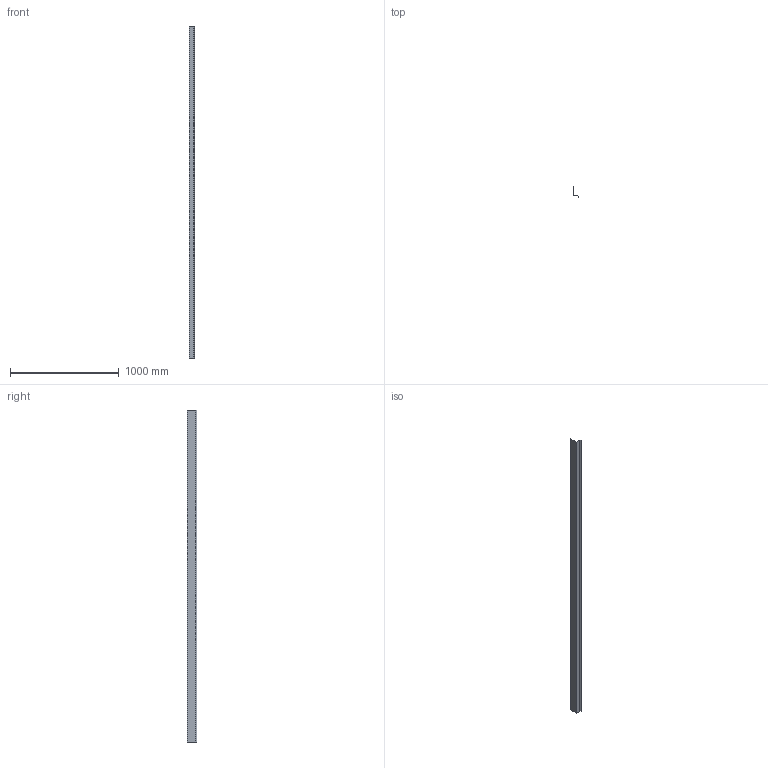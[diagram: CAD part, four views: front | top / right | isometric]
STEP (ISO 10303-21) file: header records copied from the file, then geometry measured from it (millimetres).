
FILE_DESCRIPTION (( 'STEP AP203' ), '1' );
FILE_NAME ('M53F.STEP', '2018-06-18T19:30:07', ( 'Michael Moliner' ), ( '' ), 'SwSTEP 2.0', 'SolidWorks 2018', '' );
FILE_SCHEMA (( 'CONFIG_CONTROL_DESIGN' ));
Length unit declared in the file: inch
Products named in the file (2): M53F
Bounding box: 53.07 x 88.47 x 3048 mm (x, y, z)
Volume: 294783.3 mm3; surface area: 1163854.4 mm2
Topology: 1 solids, 1 shells, 21 faces, 57 edges, 38 vertices
Faces by surface type: plane 14, cylinder 7
Entity records: 822 total; most frequent: CARTESIAN_POINT 118, DIRECTION 117, ORIENTED_EDGE 114, EDGE_CURVE 57, VECTOR 43, LINE 43, VERTEX_POINT 38, AXIS2_PLACEMENT_3D 37
